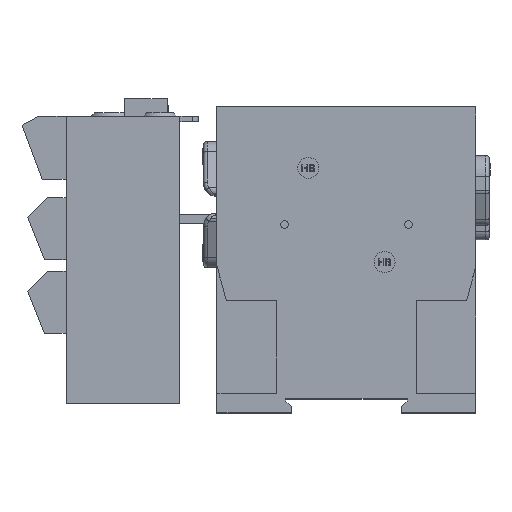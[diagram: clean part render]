
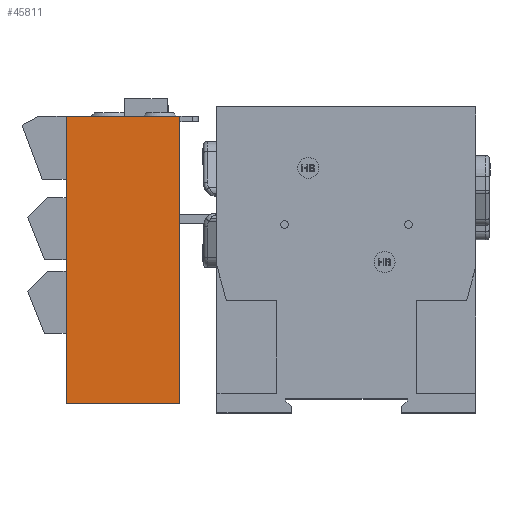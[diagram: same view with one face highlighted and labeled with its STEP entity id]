
A CAD part, top view. The second image highlights one B-rep face of the part: STEP entity #45811.
In plain terms, the highlighted planar face has unit normal (0, 0, 1) as drawn and (-1, 0, 0) by its records, which use the part's own axes.
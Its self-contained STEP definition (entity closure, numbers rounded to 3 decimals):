
#2692 = VECTOR ( 'NONE', #50896, 1000. ) ;
#5769 = EDGE_CURVE ( 'NONE', #77725, #16370, #6802, .T. ) ;
#6802 = LINE ( 'NONE', #25023, #2692 ) ;
#6922 = EDGE_LOOP ( 'NONE', ( #6941, #46747, #30163, #78073 ) ) ;
#6941 = ORIENTED_EDGE ( 'NONE', *, *, #22790, .T. ) ;
#11929 = CARTESIAN_POINT ( 'NONE',  ( 0., 82., 0. ) ) ;
#12580 = DIRECTION ( 'NONE',  ( 1., 0., 0. ) ) ;
#13406 = CARTESIAN_POINT ( 'NONE',  ( 0., 82., 0. ) ) ;
#13692 = VECTOR ( 'NONE', #63511, 1000. ) ;
#16370 = VERTEX_POINT ( 'NONE', #38135 ) ;
#17521 = VECTOR ( 'NONE', #71426, 1000. ) ;
#19450 = VERTEX_POINT ( 'NONE', #24501 ) ;
#19918 = DIRECTION ( 'NONE',  ( 0., 0., -1. ) ) ;
#22790 = EDGE_CURVE ( 'NONE', #16370, #19450, #48739, .T. ) ;
#24501 = CARTESIAN_POINT ( 'NONE',  ( 0., 0., 0. ) ) ;
#25023 = CARTESIAN_POINT ( 'NONE',  ( 0., 82., -32.5 ) ) ;
#29916 = CARTESIAN_POINT ( 'NONE',  ( 0., 0., 0. ) ) ;
#30163 = ORIENTED_EDGE ( 'NONE', *, *, #52423, .F. ) ;
#31839 = PLANE ( 'NONE',  #52066 ) ;
#32488 = CARTESIAN_POINT ( 'NONE',  ( 0., 82., 0. ) ) ;
#34724 = LINE ( 'NONE', #52042, #17521 ) ;
#38135 = CARTESIAN_POINT ( 'NONE',  ( 0., 0., -32.5 ) ) ;
#45811 = ADVANCED_FACE ( 'NONE', ( #68288 ), #31839, .F. ) ;
#46747 = ORIENTED_EDGE ( 'NONE', *, *, #46815, .F. ) ;
#46815 = EDGE_CURVE ( 'NONE', #61965, #19450, #50002, .T. ) ;
#48739 = LINE ( 'NONE', #29916, #65882 ) ;
#50002 = LINE ( 'NONE', #11929, #13692 ) ;
#50896 = DIRECTION ( 'NONE',  ( 0., -1., 0. ) ) ;
#52042 = CARTESIAN_POINT ( 'NONE',  ( 0., 82., 0. ) ) ;
#52066 = AXIS2_PLACEMENT_3D ( 'NONE', #13406, #12580, #19918 ) ;
#52423 = EDGE_CURVE ( 'NONE', #77725, #61965, #34724, .T. ) ;
#58073 = CARTESIAN_POINT ( 'NONE',  ( 0., 82., -32.5 ) ) ;
#61965 = VERTEX_POINT ( 'NONE', #32488 ) ;
#63511 = DIRECTION ( 'NONE',  ( 0., -1., 0. ) ) ;
#65882 = VECTOR ( 'NONE', #68465, 1000. ) ;
#68288 = FACE_OUTER_BOUND ( 'NONE', #6922, .T. ) ;
#68465 = DIRECTION ( 'NONE',  ( 0., 0., 1. ) ) ;
#71426 = DIRECTION ( 'NONE',  ( 0., 0., 1. ) ) ;
#77725 = VERTEX_POINT ( 'NONE', #58073 ) ;
#78073 = ORIENTED_EDGE ( 'NONE', *, *, #5769, .T. ) ;
